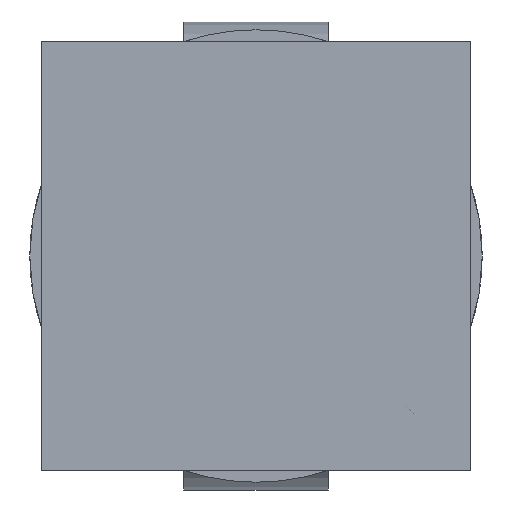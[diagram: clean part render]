
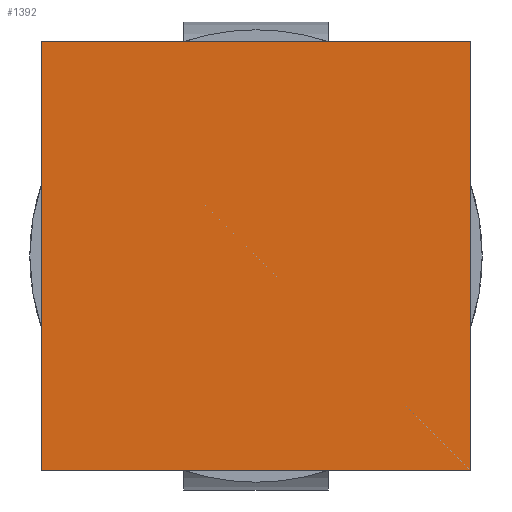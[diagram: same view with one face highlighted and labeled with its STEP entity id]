
A CAD part, front view. The second image highlights one B-rep face of the part: STEP entity #1392.
In plain terms, the highlighted planar face has unit normal (0, -1, 0).
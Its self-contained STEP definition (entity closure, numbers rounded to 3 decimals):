
#107 = VERTEX_POINT ( 'NONE', #1613 ) ;
#108 = VERTEX_POINT ( 'NONE', #1612 ) ;
#112 = VERTEX_POINT ( 'NONE', #1611 ) ;
#667 = DIRECTION ( 'NONE',  ( 0., 0., -1. ) ) ;
#668 = DIRECTION ( 'NONE',  ( 0., -1., 0. ) ) ;
#669 = CARTESIAN_POINT ( 'NONE',  ( -5.5, -5.5, -5.5 ) ) ;
#670 = AXIS2_PLACEMENT_3D ( 'NONE', #669, #668, #667 ) ;
#672 = PLANE ( 'NONE',  #670 ) ;
#673 = FACE_OUTER_BOUND ( 'NONE', #1393, .T. ) ;
#700 = DIRECTION ( 'NONE',  ( -1., 0., 0. ) ) ;
#701 = VECTOR ( 'NONE', #700, 1000. ) ;
#702 = CARTESIAN_POINT ( 'NONE',  ( -5.5, -5.5, -5.5 ) ) ;
#703 = LINE ( 'NONE', #702, #701 ) ;
#708 = DIRECTION ( 'NONE',  ( 1., 0., 0. ) ) ;
#709 = VECTOR ( 'NONE', #708, 1000. ) ;
#710 = CARTESIAN_POINT ( 'NONE',  ( -5.5, -5.5, 5.5 ) ) ;
#711 = LINE ( 'NONE', #710, #709 ) ;
#722 = DIRECTION ( 'NONE',  ( 0., 0., -1. ) ) ;
#723 = VECTOR ( 'NONE', #722, 1000. ) ;
#724 = CARTESIAN_POINT ( 'NONE',  ( 5.5, -5.5, 5.5 ) ) ;
#725 = LINE ( 'NONE', #724, #723 ) ;
#741 = DIRECTION ( 'NONE',  ( 0., 0., 1. ) ) ;
#742 = VECTOR ( 'NONE', #741, 1000. ) ;
#743 = CARTESIAN_POINT ( 'NONE',  ( -5.5, -5.5, 5.5 ) ) ;
#744 = LINE ( 'NONE', #743, #742 ) ;
#745 = CARTESIAN_POINT ( 'NONE',  ( 5.5, -5.5, 5.5 ) ) ;
#1392 = ADVANCED_FACE ( 'NONE', ( #673 ), #672, .T. ) ;
#1393 = EDGE_LOOP ( 'NONE', ( #1394, #1395, #1396, #1397 ) ) ;
#1394 = ORIENTED_EDGE ( 'NONE', *, *, #1425, .F. ) ;
#1395 = ORIENTED_EDGE ( 'NONE', *, *, #1415, .F. ) ;
#1396 = ORIENTED_EDGE ( 'NONE', *, *, #1401, .F. ) ;
#1397 = ORIENTED_EDGE ( 'NONE', *, *, #1411, .F. ) ;
#1401 = EDGE_CURVE ( 'NONE', #1424, #112, #725, .T. ) ;
#1411 = EDGE_CURVE ( 'NONE', #108, #1424, #711, .T. ) ;
#1415 = EDGE_CURVE ( 'NONE', #112, #107, #703, .T. ) ;
#1424 = VERTEX_POINT ( 'NONE', #745 ) ;
#1425 = EDGE_CURVE ( 'NONE', #107, #108, #744, .T. ) ;
#1611 = CARTESIAN_POINT ( 'NONE',  ( 5.5, -5.5, -5.5 ) ) ;
#1612 = CARTESIAN_POINT ( 'NONE',  ( -5.5, -5.5, 5.5 ) ) ;
#1613 = CARTESIAN_POINT ( 'NONE',  ( -5.5, -5.5, -5.5 ) ) ;
